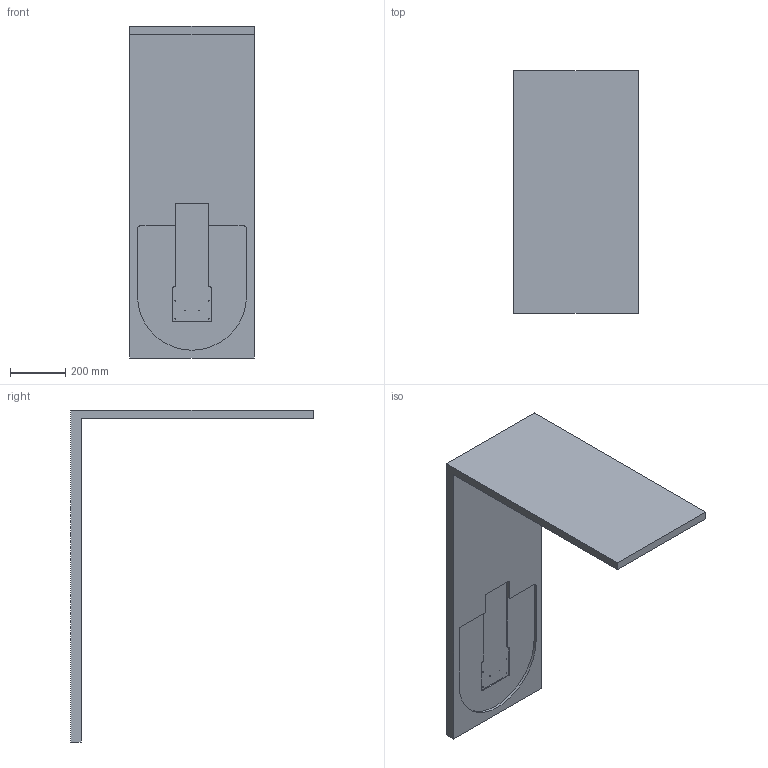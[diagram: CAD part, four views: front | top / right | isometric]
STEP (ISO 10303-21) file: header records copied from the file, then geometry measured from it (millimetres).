
FILE_DESCRIPTION (( 'STEP AP214' ), '1' );
FILE_NAME ('W036028_Tischplattenausfräsung_CM3040.STEP', '2022-11-23T08:36:42', ( '' ), ( '' ), 'SwSTEP 2.0', 'SolidWorks 2021', '' );
FILE_SCHEMA (( 'AUTOMOTIVE_DESIGN' ));
Length unit declared in the file: millimetre
Products named in the file (1): W036028_Tischplattenausfräsung_CM3040
Bounding box: 450 x 878 x 1200 mm (x, y, z)
Volume: 29937306.5 mm3; surface area: 2033523 mm2
Topology: 1 solids, 1 shells, 50 faces, 123 edges, 82 vertices
Faces by surface type: plane 28, cylinder 22
Entity records: 1525 total; most frequent: DIRECTION 269, CARTESIAN_POINT 256, ORIENTED_EDGE 246, EDGE_CURVE 123, AXIS2_PLACEMENT_3D 95, VERTEX_POINT 82, VECTOR 79, LINE 79
